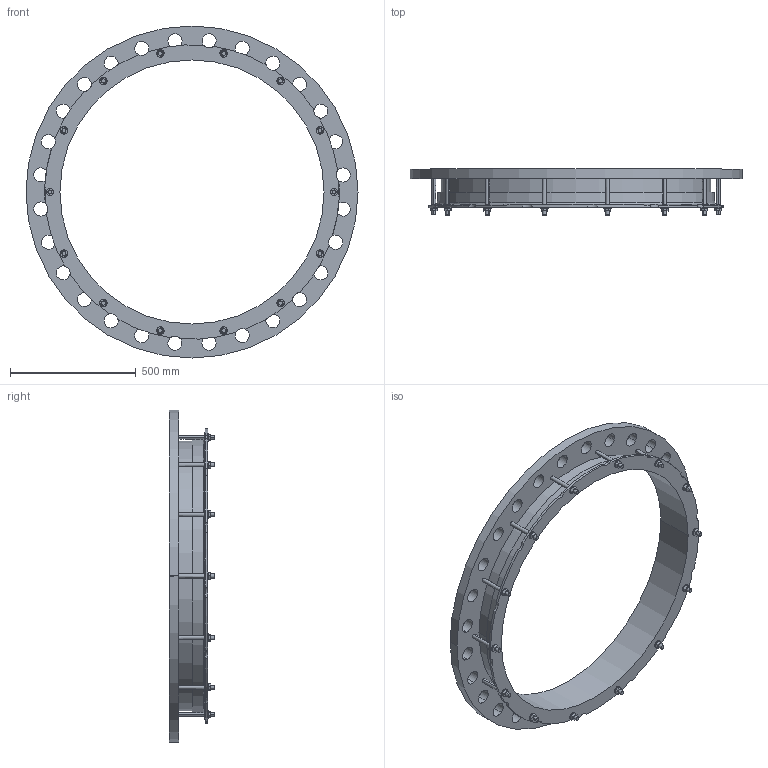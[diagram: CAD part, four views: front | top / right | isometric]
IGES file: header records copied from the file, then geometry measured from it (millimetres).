
Start section:  PTC IGES file: 1048x1000pn25_14not.igs
Global section: file name: 1048x1000pn25_14not.igs; native system: Creo Parametric by PTC Inc.; preprocessor: 2016130; author: mfairey; organization: Unknown; date: 20190404.151455; units: millimetre
Bounding box: 1320 x 182 x 1320 mm (x, y, z)
Surface area: 2520835.9 mm2 (no closed solid volume)
Topology: 0 solids, 0 shells, 310 faces, 1664 edges, 1664 vertices
Faces by surface type: revolution 180, bspline 130
